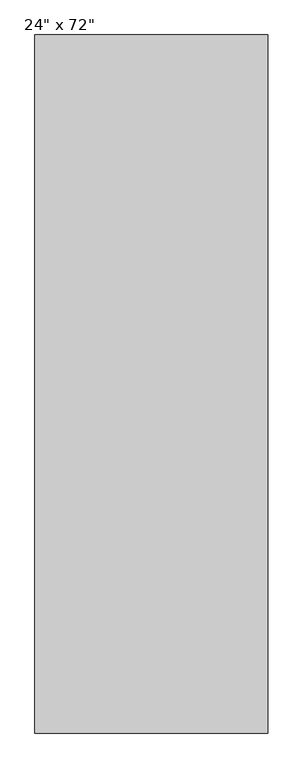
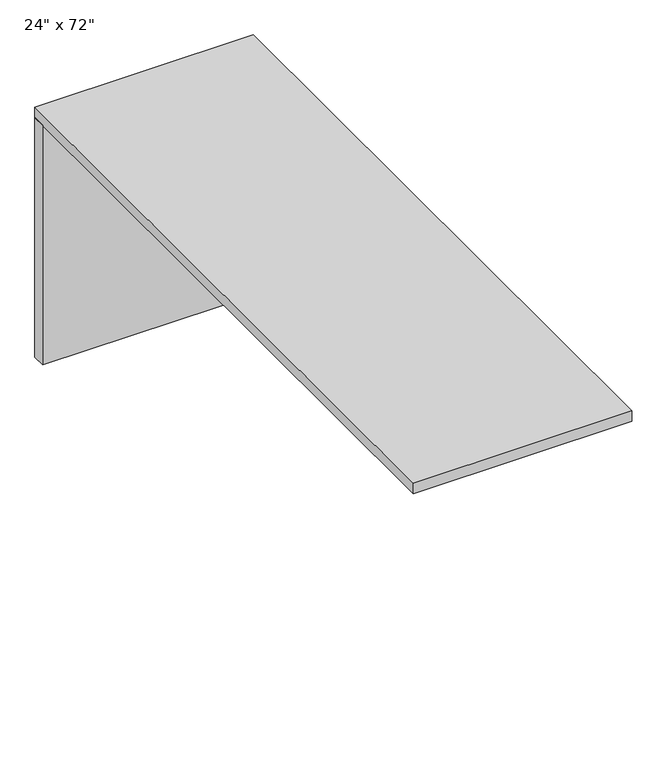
"""IFC4 building model written with IfcOpenShell, lengths in millimetres: furniture geometry."""

from ifc_helpers import new_model, si_unit, frame, origin, origin_with_axes, place, context, project, spatial, polyline, outline, extrude, source, transform, mapped, element, save


def furniture_dc22e049(model_context):
    return source(origin(), model_context, "Body", "SweptSolid", [
        extrude(outline(polyline([(-304.8, 876.3), (-304.8, 914.4), (304.8, 914.4), (304.8, 876.3), (-304.8, 876.3)])), origin_with_axes(), (0.0, 0.0, 1.0), 706.4375),
        extrude(outline(polyline([(-304.8, 914.4), (304.8, 914.4), (304.8, -914.4), (-304.8, -914.4), (-304.8, 914.4)])), frame((0.0, 0.0, 706.4375), z_axis=(0.0, 0.0, 1.0), x_axis=(1.0, 0.0, 0.0)), (0.0, 0.0, 1.0), 30.1625),
    ])


if __name__ == "__main__":
    model = new_model("IFC4")
    model_context = context("Model", 3, world=origin())
    ifc_project = project(units=[si_unit("LENGTHUNIT", "METRE", prefix="MILLI")], contexts=[model_context])
    site = spatial("IfcSite", under=ifc_project)
    building = spatial("IfcBuilding", under=site)
    placement = place(None, origin())
    furniture_shape = furniture_dc22e049(model_context)
    element("IfcFurniture", 1, ObjectType="Haworth_Worksurface_Compose-Convergent_Rectangular : 24\" x 72\"", at=placement, inside=building, context=model_context, shape_type="MappedRepresentation", body=[
        mapped(furniture_shape, transform((0.0, 0.0, 0.0), x_axis=(1.0, 0.0, 0.0), y_axis=(0.0, 1.0, 0.0), z_axis=(0.0, 0.0, 1.0))),
    ])
    save(model, "model.ifc")
